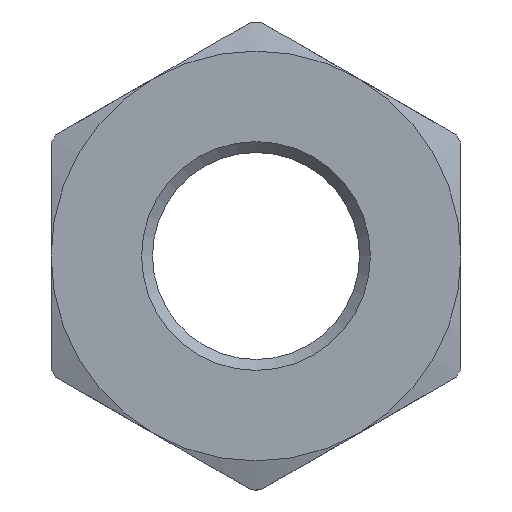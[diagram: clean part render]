
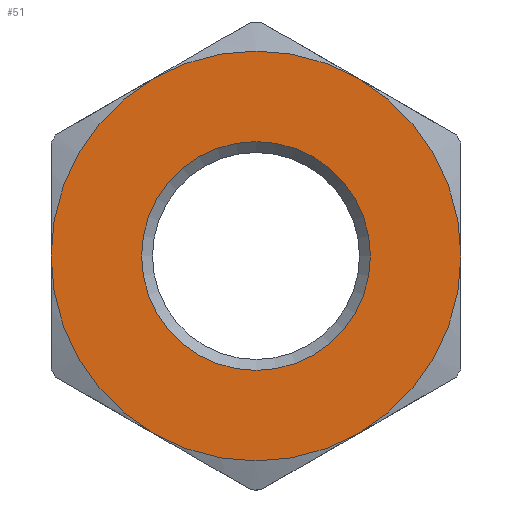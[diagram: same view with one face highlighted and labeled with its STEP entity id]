
A CAD part, front view. The second image highlights one B-rep face of the part: STEP entity #51.
In plain terms, the highlighted planar face has unit normal (0, -1, 0).
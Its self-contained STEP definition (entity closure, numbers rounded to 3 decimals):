
#51=ADVANCED_FACE('',(#135,#137),#139,.F.);
#135=FACE_BOUND('',#136,.T.);
#136=EDGE_LOOP('',(#306,#307,#308,#309));
#137=FACE_BOUND('',#138,.T.);
#138=EDGE_LOOP('',(#310));
#139=PLANE('',#140);
#140=AXIS2_PLACEMENT_3D('',#141,#142,#143);
#141=CARTESIAN_POINT('',(0.,0.,0.));
#142=DIRECTION('',(0.,1.,0.));
#143=DIRECTION('',(-1.,0.,0.));
#306=ORIENTED_EDGE('',*,*,#411,.T.);
#307=ORIENTED_EDGE('',*,*,#412,.T.);
#308=ORIENTED_EDGE('',*,*,#413,.T.);
#309=ORIENTED_EDGE('',*,*,#414,.T.);
#310=ORIENTED_EDGE('',*,*,#415,.T.);
#411=EDGE_CURVE('',#475,#476,#477,.F.);
#412=EDGE_CURVE('',#476,#478,#479,.F.);
#413=EDGE_CURVE('',#478,#480,#481,.F.);
#414=EDGE_CURVE('',#480,#475,#482,.F.);
#415=EDGE_CURVE('',#483,#483,#484,.T.);
#475=VERTEX_POINT('',#596);
#476=VERTEX_POINT('',#597);
#477=CIRCLE('',#598,30.);
#478=VERTEX_POINT('',#602);
#479=CIRCLE('',#603,30.);
#480=VERTEX_POINT('',#607);
#481=CIRCLE('',#608,30.);
#482=CIRCLE('',#612,30.);
#483=VERTEX_POINT('',#616);
#484=CIRCLE('',#617,16.746);
#596=CARTESIAN_POINT('',(15.,0.,-25.981));
#597=CARTESIAN_POINT('',(30.,0.,0.));
#598=AXIS2_PLACEMENT_3D('',#599,#600,#601);
#599=CARTESIAN_POINT('',(0.,0.,0.));
#600=DIRECTION('',(0.,1.,0.));
#601=DIRECTION('',(1.,0.,0.));
#602=CARTESIAN_POINT('',(-30.,0.,0.));
#603=AXIS2_PLACEMENT_3D('',#604,#605,#606);
#604=CARTESIAN_POINT('',(0.,0.,0.));
#605=DIRECTION('',(0.,1.,0.));
#606=DIRECTION('',(-1.,0.,0.));
#607=CARTESIAN_POINT('',(-15.,0.,-25.981));
#608=AXIS2_PLACEMENT_3D('',#609,#610,#611);
#609=CARTESIAN_POINT('',(0.,0.,0.));
#610=DIRECTION('',(0.,1.,0.));
#611=DIRECTION('',(-0.5,0.,-0.866));
#612=AXIS2_PLACEMENT_3D('',#613,#614,#615);
#613=CARTESIAN_POINT('',(0.,0.,0.));
#614=DIRECTION('',(0.,1.,0.));
#615=DIRECTION('',(0.5,0.,-0.866));
#616=CARTESIAN_POINT('',(-16.746,0.,0.));
#617=AXIS2_PLACEMENT_3D('',#618,#619,#620);
#618=CARTESIAN_POINT('',(0.,0.,0.));
#619=DIRECTION('',(0.,1.,0.));
#620=DIRECTION('',(-1.,0.,0.));
